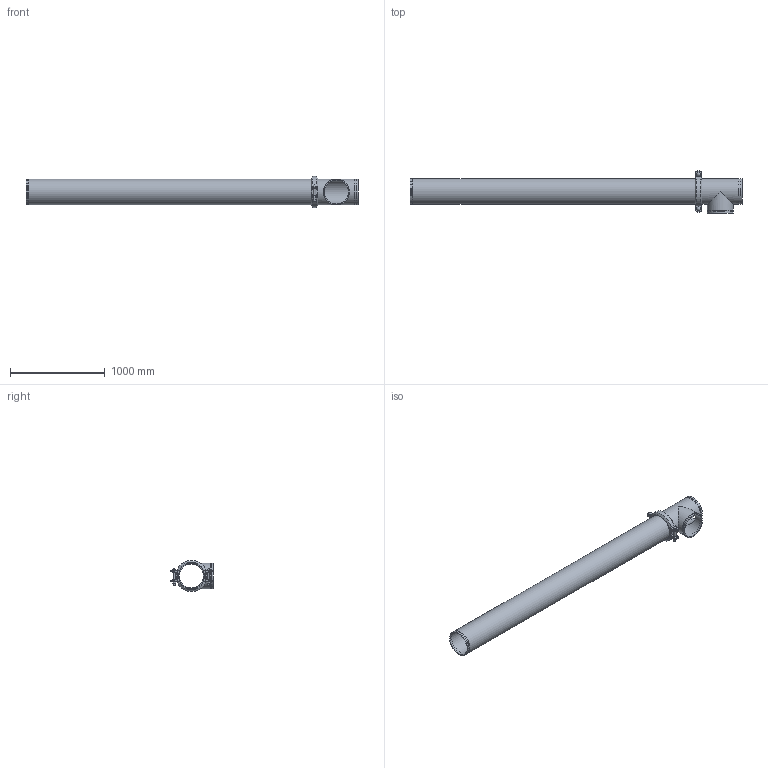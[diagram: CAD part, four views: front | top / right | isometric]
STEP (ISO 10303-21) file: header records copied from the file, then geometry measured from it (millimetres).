
FILE_DESCRIPTION(/* description */ ('VIC LONG RUN FITTING No R15 (OGS)','CAx-IF Rec.Pracs.---Representation and Presentation of Product Manufacturing Information (PMI)---4.0---2014-10-13'),/* implementation_level */ '2;1');
FILE_NAME(/* name */ 'C:\Users\Vjadhav\AppData\Roaming\Autodesk\ApplicationPlugins\Back Up\Victaulic_IPS_Long Run Fittings_No R15 (OGS)\Victaulic_IPS_Long Run Fittings_No R15 (OGS)_10 (250).stp',/* time_stamp */ '2020-10-06T19:04:20+06:00',/* author */ ('Vjadhav'),/* organization */ ('Victaulic'),/* preprocessor_version */ 'ST-DEVELOPER v17.2',/* originating_system */ 'Autodesk Inventor 2019',/* authorisation */ '');
FILE_SCHEMA (('AP242_MANAGED_MODEL_BASED_3D_ENGINEERING_MIM_LF { 1 0 10303 442 1 1 4 }'));
Length unit declared in the file: inch
Products named in the file (4): R15-10.0; 020-10.0; 107N-10.0; Pipe_R13-10.0
Assembly tree (3 placements, depth 2):
  R15-10.0
    020-10.0
    107N-10.0
    Pipe_R13-10.0
Bounding box: 3510.28 x 446.15 x 330.2 mm (x, y, z)
Volume: 29419039.9 mm3; surface area: 6213725 mm2
Topology: 3 solids, 3 shells, 150 faces, 389 edges, 264 vertices
Faces by surface type: plane 65, cylinder 63, bspline 16, cone 4, sphere 2
Full cylindrical faces by diameter (mm): 22.225 x4, 37.694 x2, 254.508 x3, 260.35 x1, 268.275 x5, 273.05 x10
Entity records: 5603 total; most frequent: CARTESIAN_POINT 1458, DIRECTION 847, ORIENTED_EDGE 778, EDGE_CURVE 389, AXIS2_PLACEMENT_3D 333, VERTEX_POINT 264, EDGE_LOOP 181, LINE 181
